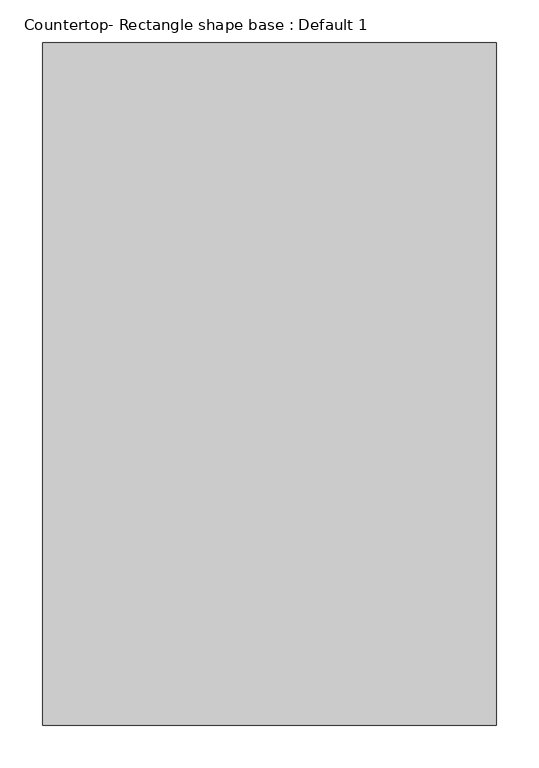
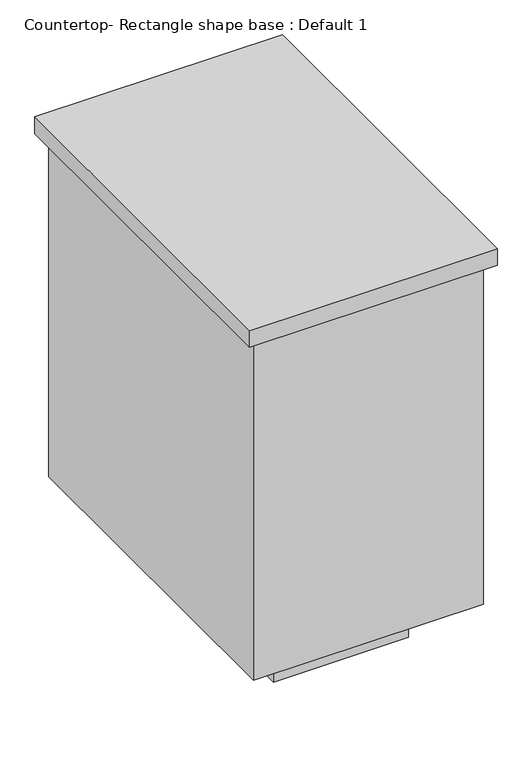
"""IFC4 building model written with IfcOpenShell, lengths in millimetres: proxy geometry, Countertop- Rectangle shape base : Default 1."""

import ifcopenshell
import ifcopenshell.guid

model = None  # the IFC model being written
_history = None  # IfcOwnerHistory: only IFC2X3 demands one
_inside = {}  # id of a spatial element -> (the spatial element, [elements in it])
_under = {}  # id of a project, library or spatial element -> (it, [spatial elements below it])
_declared = {}  # id of a project -> (the project, [libraries it declares])
_typed = {}  # id of a type object -> (the type object, [elements of that type])
_made_of = {}  # id of a material, layer set ... -> (it, [elements and type objects made of it])


def new_model(schema):
    """Start an empty IFC model of exactly this schema.

    Asked for "IFC4X3", IfcOpenShell would pick the latest addendum, in which some entities
    have other attributes; the version numbers below select the first issue.
    IFC2X3 requires an IfcOwnerHistory on every rooted entity: one is made here for all.
    """
    global model, _history
    if schema == "IFC4X3":
        model = ifcopenshell.file(schema_version=(4, 3, 0, 0))
    else:
        model = ifcopenshell.file(schema=schema)
    _inside.clear()
    _under.clear()
    _declared.clear()
    _typed.clear()
    _made_of.clear()
    _history = None
    if model.schema == "IFC2X3":
        org = make("IfcOrganization", Name="unknown")
        user = make(
            "IfcPersonAndOrganization",
            ThePerson=make("IfcPerson", FamilyName="unknown"),
            TheOrganization=org,
        )
        app = make(
            "IfcApplication",
            ApplicationDeveloper=org,
            Version="unknown",
            ApplicationFullName="unknown",
            ApplicationIdentifier="unknown",
        )
        _history = make(
            "IfcOwnerHistory",
            OwningUser=user,
            OwningApplication=app,
            ChangeAction="ADDED",
            CreationDate=0,
        )
    return model


def make(cls, **values):
    """One entity of the class cls with the attributes given. An attribute that is None is left unset."""
    return model.create_entity(
        cls, **{name: value for name, value in values.items() if value is not None}
    )


def rooted(cls, **values):
    """An entity with a GlobalId (a new one), such as an element, a storey or a relation."""
    return make(cls, GlobalId=ifcopenshell.guid.new(), OwnerHistory=_history, **values)


def si_unit(unit_type, name, prefix=None):
    """IfcSIUnit, for example si_unit("LENGTHUNIT", "METRE", prefix="MILLI")."""
    return make("IfcSIUnit", UnitType=unit_type, Prefix=prefix, Name=name)


def assignment(units):
    """IfcUnitAssignment: the units of a project."""
    return None if units is None else make("IfcUnitAssignment", Units=units)


def point(xyz):
    """IfcCartesianPoint."""
    return None if xyz is None else make("IfcCartesianPoint", Coordinates=xyz)


def direction(xyz):
    """IfcDirection."""
    return None if xyz is None else make("IfcDirection", DirectionRatios=xyz)


def frame(location, z_axis=None, x_axis=None):
    """IfcAxis2Placement3D, a coordinate frame: its origin and axes. An axis left out is left unset."""
    return make(
        "IfcAxis2Placement3D",
        Location=point(location),
        Axis=direction(z_axis),
        RefDirection=direction(x_axis),
    )


def origin():
    """The frame at (0, 0, 0) with its axes left unset."""
    return frame((0.0, 0.0, 0.0))


def origin_with_axes():
    """The frame at (0, 0, 0) with the z axis (0, 0, 1) and the x axis (1, 0, 0) written out."""
    return frame((0.0, 0.0, 0.0), z_axis=(0.0, 0.0, 1.0), x_axis=(1.0, 0.0, 0.0))


def place(relative_to, where):
    """IfcLocalPlacement: puts the frame where relative to a parent placement (None: the world)."""
    return make(
        "IfcLocalPlacement", PlacementRelTo=relative_to, RelativePlacement=where
    )


def context(
    kind, dimensions, precision=None, world=None, true_north=None, identifier=None
):
    """IfcGeometricRepresentationContext, for example the 3D "Model" context."""
    return make(
        "IfcGeometricRepresentationContext",
        ContextIdentifier=identifier,
        ContextType=kind,
        CoordinateSpaceDimension=dimensions,
        Precision=precision,
        WorldCoordinateSystem=world,
        TrueNorth=true_north,
    )


def project(units=None, contexts=None):
    """IfcProject with its units and contexts."""
    return rooted(
        "IfcProject",
        Name="project",
        RepresentationContexts=contexts,
        UnitsInContext=assignment(units),
    )


def spatial(cls, under=None, at=None, **own):
    """A site, building, storey or space (cls), placed at a placement, below another one or the project."""
    s = rooted(cls, ObjectPlacement=at, **own)
    if under is not None:
        _under.setdefault(under.id(), (under, []))[1].append(s)
    return s


def polyline(points):
    """IfcPolyline through the points."""
    return make("IfcPolyline", Points=[point(p) for p in points])


def outline(outer, holes=None, kind="AREA"):
    """IfcArbitraryClosedProfileDef: a profile drawn as a closed curve; with holes, ...WithVoids."""
    if holes is None:
        return make("IfcArbitraryClosedProfileDef", ProfileType=kind, OuterCurve=outer)
    return make(
        "IfcArbitraryProfileDefWithVoids",
        ProfileType=kind,
        OuterCurve=outer,
        InnerCurves=holes,
    )


def extrude(swept, where, along, depth):
    """IfcExtrudedAreaSolid: the profile swept, set in the frame where, extruded along a direction by depth."""
    return make(
        "IfcExtrudedAreaSolid",
        SweptArea=swept,
        Position=where,
        ExtrudedDirection=direction(along),
        Depth=depth,
    )


def shape(context_of_items, identifier, shape_type, items):
    """IfcShapeRepresentation: the items that make up one representation, for example the "Body"."""
    return make(
        "IfcShapeRepresentation",
        ContextOfItems=context_of_items,
        RepresentationIdentifier=identifier,
        RepresentationType=shape_type,
        Items=items,
    )


def source(mapping_origin, context_of_items, identifier, shape_type, items):
    """IfcRepresentationMap: a shape defined once, which mapped items show again and again."""
    return make(
        "IfcRepresentationMap",
        MappingOrigin=mapping_origin,
        MappedRepresentation=shape(context_of_items, identifier, shape_type, items),
    )


def transform(
    local_origin,
    x_axis=None,
    y_axis=None,
    z_axis=None,
    scale=None,
    scale2=None,
    scale3=None,
    uniform=True,
):
    """IfcCartesianTransformationOperator3D, or its non-uniform kind. x_axis, y_axis, z_axis: its Axis1, 2, 3."""
    if uniform:
        return make(
            "IfcCartesianTransformationOperator3D",
            Axis1=direction(x_axis),
            Axis2=direction(y_axis),
            LocalOrigin=point(local_origin),
            Scale=scale,
            Axis3=direction(z_axis),
        )
    return make(
        "IfcCartesianTransformationOperator3DnonUniform",
        Axis1=direction(x_axis),
        Axis2=direction(y_axis),
        LocalOrigin=point(local_origin),
        Scale=scale,
        Axis3=direction(z_axis),
        Scale2=scale2,
        Scale3=scale3,
    )


def mapped(mapping_source, mapping_target):
    """IfcMappedItem: shows the shape of a source again, moved by a transform."""
    return make(
        "IfcMappedItem", MappingSource=mapping_source, MappingTarget=mapping_target
    )


def made_of(thing, what):
    """Note that an element or type object is made of a material, layer set ...; save() writes the relation."""
    if what is not None:
        _made_of.setdefault(what.id(), (what, []))[1].append(thing)
    return thing


def element(
    cls,
    number,
    at=None,
    inside=None,
    cuts=None,
    type_object=None,
    material=None,
    context=None,
    identifier="Body",
    shape_type=None,
    held_by="IfcProductDefinitionShape",
    body=None,
    shapes=None,
    **own,
):
    """One element of the class cls, such as IfcWall. Its Tag is "e" and its number.

    at: its placement. inside: the storey or other place that contains it. cuts: it is an
    opening in that element (IfcRelVoidsElement). A single representation is given by context,
    identifier, shape_type and body (its items); several are given by shapes. held_by: the class
    of the entity that holds the representations. save() writes the other relations.
    """
    e = rooted(cls, Tag="e%d" % number, ObjectPlacement=at, **own)
    if body is not None:
        shapes = [shape(context, identifier, shape_type, body)]
    if shapes is not None:
        e.Representation = make(held_by, Representations=shapes)
    if inside is not None:
        _inside.setdefault(inside.id(), (inside, []))[1].append(e)
    if cuts is not None:
        rooted(
            "IfcRelVoidsElement", RelatingBuildingElement=cuts, RelatedOpeningElement=e
        )
    if type_object is not None:
        _typed.setdefault(type_object.id(), (type_object, []))[1].append(e)
    return made_of(e, material)


def aggregate(whole, parts):
    """IfcRelAggregates: a whole, such as a stair, and the parts it consists of."""
    return rooted("IfcRelAggregates", RelatingObject=whole, RelatedObjects=parts)


def save(model, path):
    """Write the relations noted so far, then the file.

    IfcRelAggregates (storeys below a building ...), IfcRelContainedInSpatialStructure (elements
    in a storey), IfcRelDefinesByType, IfcRelAssociatesMaterial and IfcRelDeclares: one each for
    every whole, place, type object, material and project.
    """
    for whole, parts in _under.values():
        aggregate(whole, parts)
    for where, things in _inside.values():
        rooted(
            "IfcRelContainedInSpatialStructure",
            RelatedElements=things,
            RelatingStructure=where,
        )
    for kind, things in _typed.values():
        rooted("IfcRelDefinesByType", RelatedObjects=things, RelatingType=kind)
    for what, things in _made_of.values():
        rooted("IfcRelAssociatesMaterial", RelatedObjects=things, RelatingMaterial=what)
    for by, libraries in _declared.values():
        rooted("IfcRelDeclares", RelatingContext=by, RelatedDefinitions=libraries)
    model.write(path)


def countertop_rectangle_shape_base_default_1_48722834(model_context):
    return source(origin(), model_context, "Body", "SweptSolid", [
        extrude(outline(polyline([(495.9929567, -19.05), (495.9929567, 781.05), (1028.0070433, 781.05), (1028.0070433, -19.05), (495.9929567, -19.05)])), frame((0.0, 0.0, 876.3), z_axis=(0.0, 0.0, 1.0), x_axis=(1.0, 0.0, 0.0)), (0.0, 0.0, 1.0), 38.1),
        extrude(outline(polyline([(1008.9570433, 762.0), (1008.9570433, 0.0), (515.0429567, 0.0), (515.0429567, 762.0), (1008.9570433, 762.0)])), frame((0.0, 0.0, 101.6), z_axis=(0.0, 0.0, 1.0), x_axis=(1.0, 0.0, 0.0)), (0.0, 0.0, 1.0), 774.7),
        extrude(outline(polyline([(907.3570433, 660.4), (907.3570433, 101.6), (616.6429567, 101.6), (616.6429567, 660.4), (907.3570433, 660.4)])), origin_with_axes(), (0.0, 0.0, 1.0), 101.6),
    ])


if __name__ == "__main__":
    model = new_model("IFC4")
    model_context = context("Model", 3, world=origin())
    ifc_project = project(units=[si_unit("LENGTHUNIT", "METRE", prefix="MILLI")], contexts=[model_context])
    site = spatial("IfcSite", under=ifc_project)
    building = spatial("IfcBuilding", under=site)
    placement = place(None, origin())
    countertop_rectangle_shape_base_default_1_shape = countertop_rectangle_shape_base_default_1_48722834(model_context)
    element("IfcBuildingElementProxy", 1, Name="Countertop- Rectangle shape base : Default 1", ObjectType="Countertop- Rectangle shape base : Default 1", at=placement, inside=building, context=model_context, shape_type="MappedRepresentation", body=[
        mapped(countertop_rectangle_shape_base_default_1_shape, transform((0.0, 0.0, 0.0), x_axis=(1.0, 0.0, 0.0), y_axis=(0.0, 1.0, 0.0), z_axis=(0.0, 0.0, 1.0))),
    ])
    save(model, "model.ifc")
